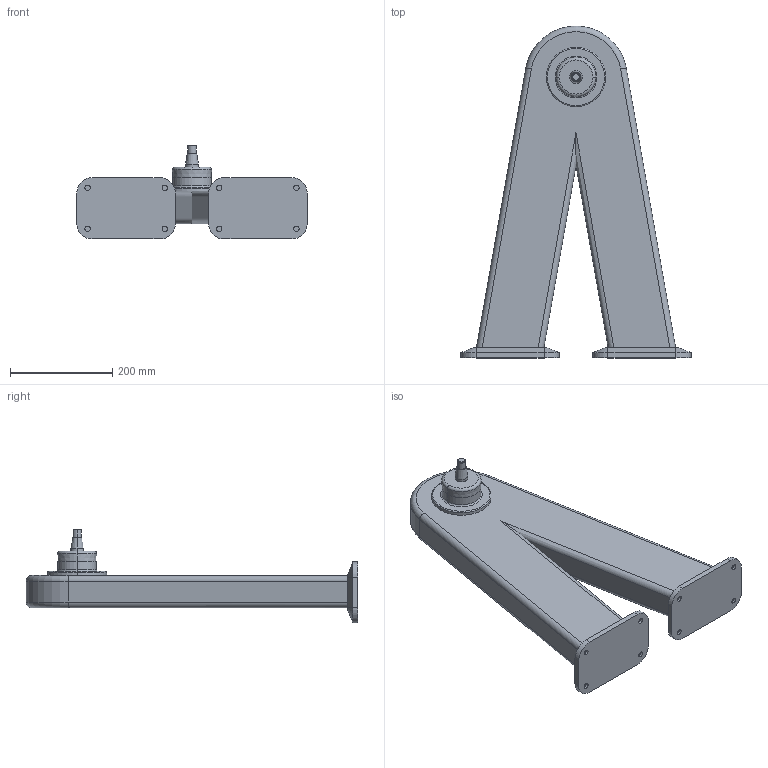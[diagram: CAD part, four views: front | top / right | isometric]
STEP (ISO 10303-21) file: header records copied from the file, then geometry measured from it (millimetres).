
FILE_DESCRIPTION (( 'STEP AP214' ), '1' );
FILE_NAME ('WP850_H550.STEP', '2014-09-08T13:00:09', ( '' ), ( '' ), 'SwSTEP 2.0', 'SolidWorks 2014', '' );
FILE_SCHEMA (( 'AUTOMOTIVE_DESIGN' ));
Length unit declared in the file: millimetre
Products named in the file (1): WP850_H550
Bounding box: 450.99 x 650 x 183.98 mm (x, y, z)
Volume: 10404219.8 mm3; surface area: 516011.2 mm2
Topology: 1 solids, 1 shells, 101 faces, 221 edges, 136 vertices
Faces by surface type: cylinder 41, plane 38, cone 14, torus 8
Entity records: 2795 total; most frequent: DIRECTION 513, CARTESIAN_POINT 489, ORIENTED_EDGE 442, EDGE_CURVE 221, AXIS2_PLACEMENT_3D 200, VERTEX_POINT 136, EDGE_LOOP 115, VECTOR 113
